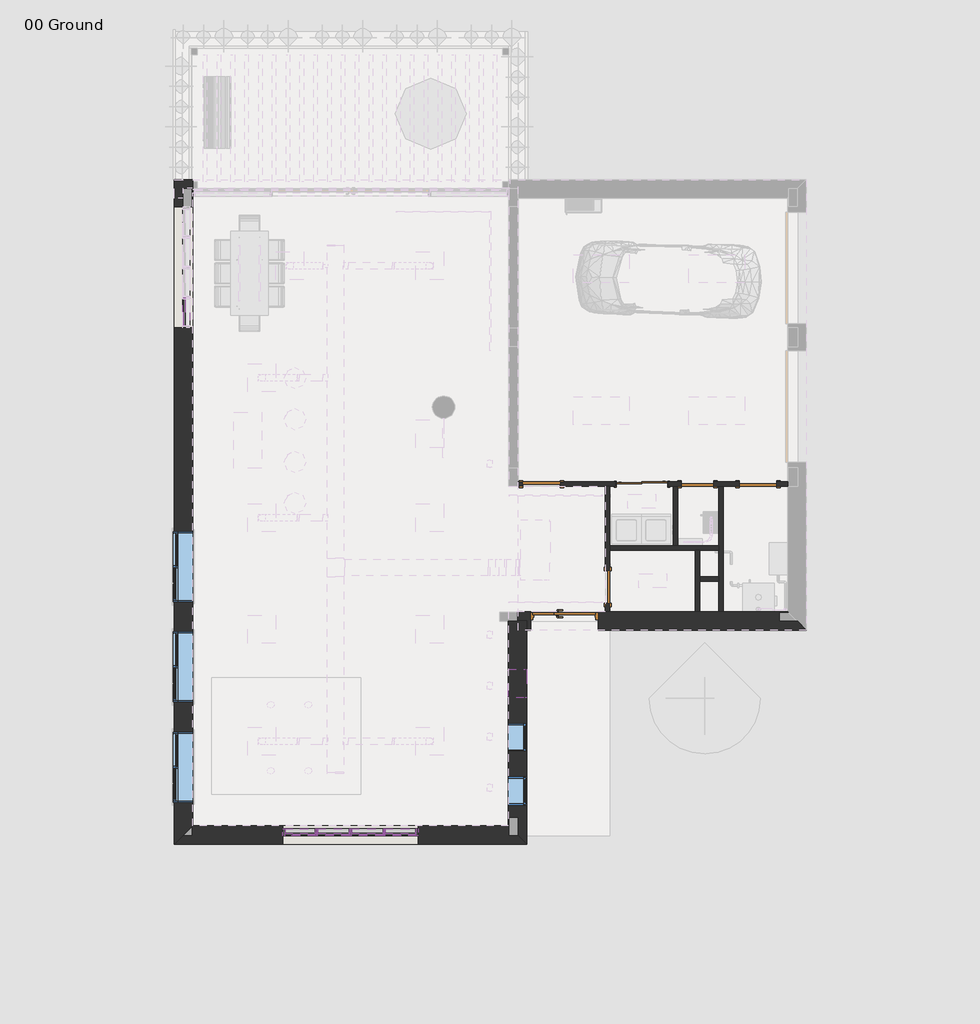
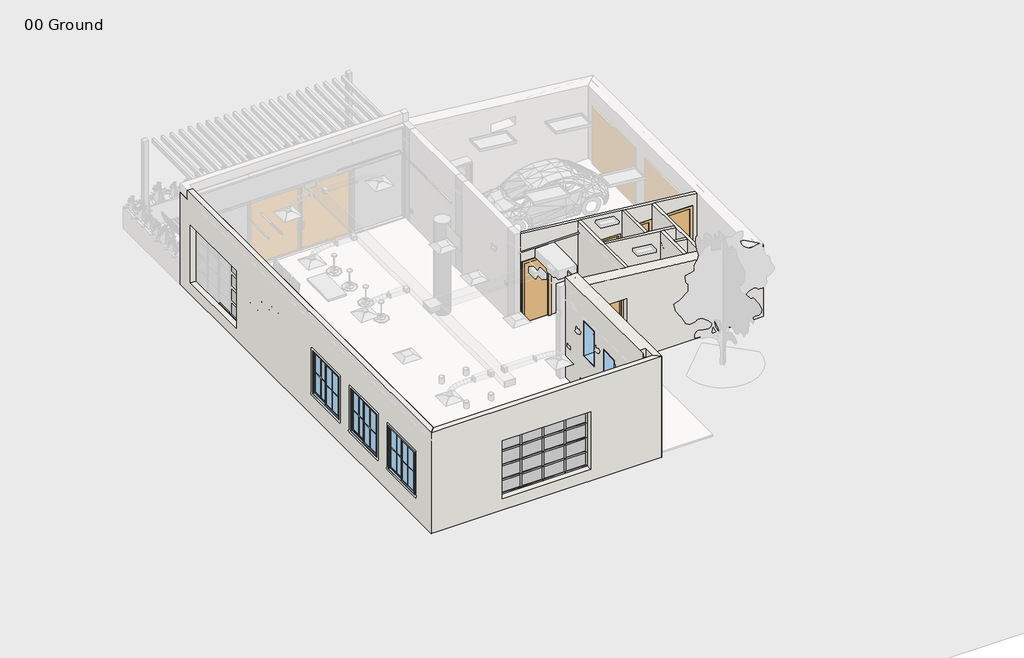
# One storey, part 1 of 7: 44 members, 20 plates, 11 walls, 6 doors, 6 windows.
"""IFC4 building model written with IfcOpenShell, lengths in millimetres."""

from ifc_helpers import new_model, si_unit, frame, origin, place, context, project, spatial, polyline, outline, extrude, faceted_brep, transform, mapped, element, save
from components import int_sliding_double_flush_nz_1100_double_sliding_door_f9a858bd, m_door_passage_uneven_flush_1350_x_2100mm_8cd78c95, m_single_flush_0700_x_2100mm_23326b45, m_single_flush_0800_x_2100mm_e1c1bfab, rectangular_mullion_50_x_150mm_5618a3b2, rectangular_mullion_50_x_150mm_9d7ed0e7, rectangular_mullion_50_x_150mm_0a8c3443, rectangular_mullion_50_x_150mm_fef40266, rectangular_mullion_50_x_150mm_4130c5bf, rectangular_mullion_50_x_150mm_a9044063, rectangular_mullion_50_x_150mm_1348d4e1, rectangular_mullion_50_x_150mm_b3666dbd, rectangular_mullion_50_x_150mm_567eccab, rectangular_mullion_50_x_150mm_22f77a7a, system_panel_glazed_5c27190a, system_panel_glazed_d06015c9, system_panel_glazed_d9146cf5, system_panel_glazed_aea024ea, system_panel_glazed_61722dae, system_panel_glazed_96a5b588, m_fixed_0610_x_1220mm_41f4d490, m_window_sliding_double_1500_x_1500mm_8cf3a065

model = new_model("IFC4")

# Units and contexts
model_context = context("Model", 3, world=origin())
ifc_project = project(units=[si_unit("LENGTHUNIT", "METRE", prefix="MILLI")], contexts=[model_context])

# Site, building, storey
site = spatial("IfcSite", under=ifc_project)
building = spatial("IfcBuilding", under=site)
storey = spatial("IfcBuildingStorey", under=building, Name="00 Ground", Elevation=0.0)

# Doors
placement = place(None, origin())
int_sliding_double_flush_nz_1100_double_sliding_door_shape = int_sliding_double_flush_nz_1100_double_sliding_door_f9a858bd(model_context)
element("IfcDoor", 1, ObjectType="Int Sliding Double-Flush (NZ) : 1100 DOUBLE SLIDING DOOR", at=placement, inside=storey, context=model_context, shape_type="MappedRepresentation", body=[
    mapped(int_sliding_double_flush_nz_1100_double_sliding_door_shape, transform((1539.7163421, -12.7101648, 0.0), x_axis=(1.0, 0.0, 0.0), y_axis=(0.0, 1.0, 0.0), z_axis=(0.0, 0.0, 1.0))),
])
m_door_passage_uneven_flush_1350_x_2100mm_shape = m_door_passage_uneven_flush_1350_x_2100mm_8cd78c95(model_context)
element("IfcDoor", 2, ObjectType="M_Door-Passage-Uneven-Flush : 1350 x 2100mm", at=placement, inside=storey, context=model_context, shape_type="MappedRepresentation", body=[
    mapped(m_door_passage_uneven_flush_1350_x_2100mm_shape, transform((-132.5407999, -2955.0601648, 0.0), x_axis=(-1.0, 0.0, 0.0), y_axis=(0.0, -1.0, 0.0), z_axis=(0.0, 0.0, 1.0))),
])
m_single_flush_0700_x_2100mm_shape = m_single_flush_0700_x_2100mm_23326b45(model_context)
element("IfcDoor", 3, ObjectType="M_Single-Flush : 0700 x 2100mm", at=placement, inside=storey, context=model_context, shape_type="MappedRepresentation", body=[
    mapped(m_single_flush_0700_x_2100mm_shape, transform((2727.4592001, -12.7101648, 0.0), x_axis=(-1.0, 0.0, 0.0), y_axis=(0.0, -1.0, 0.0), z_axis=(0.0, 0.0, 1.0))),
])
element("IfcDoor", 4, ObjectType="M_Single-Flush : 0700 x 2100mm", at=placement, inside=storey, context=model_context, shape_type="MappedRepresentation", body=[
    mapped(m_single_flush_0700_x_2100mm_shape, transform((796.9592001, -2219.7101648, 0.0), x_axis=(0.0, -1.0, 0.0), y_axis=(1.0, 0.0, 0.0), z_axis=(0.0, 0.0, 1.0))),
])
m_single_flush_0800_x_2100mm_shape = m_single_flush_0800_x_2100mm_e1c1bfab(model_context)
element("IfcDoor", 5, ObjectType="M_Single-Flush : 0800 x 2100mm", at=placement, inside=storey, context=model_context, shape_type="MappedRepresentation", body=[
    mapped(m_single_flush_0800_x_2100mm_shape, transform((-622.5407999, -12.7101648, 0.0), x_axis=(-1.0, 0.0, 0.0), y_axis=(0.0, -1.0, 0.0), z_axis=(0.0, 0.0, 1.0))),
])
element("IfcDoor", 6, ObjectType="M_Single-Flush : 0800 x 2100mm", at=placement, inside=storey, context=model_context, shape_type="MappedRepresentation", body=[
    mapped(m_single_flush_0800_x_2100mm_shape, transform((4024.4592001, -12.7101648, 0.0), x_axis=(1.0, 0.0, 0.0), y_axis=(0.0, 1.0, 0.0), z_axis=(0.0, 0.0, 1.0))),
])

# Members
rectangular_mullion_50_x_150mm_shape = rectangular_mullion_50_x_150mm_5618a3b2(model_context)
element("IfcMember", 7, ObjectType="Rectangular Mullion : 50 x 150mm", at=placement, inside=storey, context=model_context, shape_type="MappedRepresentation", body=[
    mapped(rectangular_mullion_50_x_150mm_shape, transform((-8247.5407999, 3987.2898354, 2400.0), x_axis=(0.0, 0.0, 1.0), y_axis=(1.0, 0.0, 0.0), z_axis=(0.0, 1.0, 0.0))),
])
element("IfcMember", 8, ObjectType="Rectangular Mullion : 50 x 150mm", at=placement, inside=storey, context=model_context, shape_type="MappedRepresentation", body=[
    mapped(rectangular_mullion_50_x_150mm_shape, transform((-8247.5407999, 3337.2898352, 400.0), x_axis=(0.0, 0.0, -1.0), y_axis=(1.0, 0.0, 0.0), z_axis=(0.0, -1.0, 0.0))),
])
rectangular_mullion_50_x_150mm_2_shape = rectangular_mullion_50_x_150mm_9d7ed0e7(model_context)
element("IfcMember", 9, ObjectType="Rectangular Mullion : 50 x 150mm", at=placement, inside=storey, context=model_context, shape_type="MappedRepresentation", body=[
    mapped(rectangular_mullion_50_x_150mm_2_shape, transform((-8247.5407999, 3987.2898354, 400.0), x_axis=(0.0, 0.0, -1.0), y_axis=(1.0, 0.0, 0.0), z_axis=(0.0, -1.0, 0.0))),
])
rectangular_mullion_50_x_150mm_3_shape = rectangular_mullion_50_x_150mm_0a8c3443(model_context)
element("IfcMember", 10, ObjectType="Rectangular Mullion : 50 x 150mm", at=placement, inside=storey, context=model_context, shape_type="MappedRepresentation", body=[
    mapped(rectangular_mullion_50_x_150mm_3_shape, transform((-8247.5407999, 3337.2898352, 2350.0), x_axis=(0.0, -1.0, 0.0), y_axis=(1.0, 0.0, 0.0), z_axis=(0.0, 0.0, 1.0))),
])
rectangular_mullion_50_x_150mm_4_shape = rectangular_mullion_50_x_150mm_fef40266(model_context)
element("IfcMember", 11, ObjectType="Rectangular Mullion : 50 x 150mm", at=placement, inside=storey, context=model_context, shape_type="MappedRepresentation", body=[
    mapped(rectangular_mullion_50_x_150mm_4_shape, transform((-3272.5407999, -7487.7101648, 2400.0), x_axis=(0.0, 0.0, 1.0), y_axis=(0.0, -1.0, 0.0), z_axis=(1.0, 0.0, 0.0))),
])
element("IfcMember", 12, ObjectType="Rectangular Mullion : 50 x 150mm", at=placement, inside=storey, context=model_context, shape_type="MappedRepresentation", body=[
    mapped(rectangular_mullion_50_x_150mm_4_shape, transform((-5447.5407998, -7487.7101648, 2400.0), x_axis=(0.0, 0.0, 1.0), y_axis=(0.0, -1.0, 0.0), z_axis=(1.0, 0.0, 0.0))),
])
rectangular_mullion_50_x_150mm_5_shape = rectangular_mullion_50_x_150mm_4130c5bf(model_context)
element("IfcMember", 13, ObjectType="Rectangular Mullion : 50 x 150mm", at=placement, inside=storey, context=model_context, shape_type="MappedRepresentation", body=[
    mapped(rectangular_mullion_50_x_150mm_5_shape, transform((-4722.5407999, -7487.7101648, 2400.0), x_axis=(0.0, 0.0, 1.0), y_axis=(0.0, -1.0, 0.0), z_axis=(1.0, 0.0, 0.0))),
])
element("IfcMember", 14, ObjectType="Rectangular Mullion : 50 x 150mm", at=placement, inside=storey, context=model_context, shape_type="MappedRepresentation", body=[
    mapped(rectangular_mullion_50_x_150mm_5_shape, transform((-3997.5408001, -7487.7101648, 2400.0), x_axis=(0.0, 0.0, 1.0), y_axis=(0.0, -1.0, 0.0), z_axis=(1.0, 0.0, 0.0))),
])
element("IfcMember", 15, ObjectType="Rectangular Mullion : 50 x 150mm", at=placement, inside=storey, context=model_context, shape_type="MappedRepresentation", body=[
    mapped(rectangular_mullion_50_x_150mm_4_shape, transform((-6172.5407999, -7487.7101648, 400.0), x_axis=(0.0, 0.0, -1.0), y_axis=(0.0, -1.0, 0.0), z_axis=(-1.0, 0.0, 0.0))),
])
element("IfcMember", 16, ObjectType="Rectangular Mullion : 50 x 150mm", at=placement, inside=storey, context=model_context, shape_type="MappedRepresentation", body=[
    mapped(rectangular_mullion_50_x_150mm_5_shape, transform((-5447.5407998, -7487.7101648, 400.0), x_axis=(0.0, 0.0, -1.0), y_axis=(0.0, -1.0, 0.0), z_axis=(-1.0, 0.0, 0.0))),
])
element("IfcMember", 17, ObjectType="Rectangular Mullion : 50 x 150mm", at=placement, inside=storey, context=model_context, shape_type="MappedRepresentation", body=[
    mapped(rectangular_mullion_50_x_150mm_5_shape, transform((-4722.5407999, -7487.7101648, 400.0), x_axis=(0.0, 0.0, -1.0), y_axis=(0.0, -1.0, 0.0), z_axis=(-1.0, 0.0, 0.0))),
])
element("IfcMember", 18, ObjectType="Rectangular Mullion : 50 x 150mm", at=placement, inside=storey, context=model_context, shape_type="MappedRepresentation", body=[
    mapped(rectangular_mullion_50_x_150mm_4_shape, transform((-3997.5408001, -7487.7101648, 400.0), x_axis=(0.0, 0.0, -1.0), y_axis=(0.0, -1.0, 0.0), z_axis=(-1.0, 0.0, 0.0))),
])
rectangular_mullion_50_x_150mm_6_shape = rectangular_mullion_50_x_150mm_a9044063(model_context)
element("IfcMember", 19, ObjectType="Rectangular Mullion : 50 x 150mm", at=placement, inside=storey, context=model_context, shape_type="MappedRepresentation", body=[
    mapped(rectangular_mullion_50_x_150mm_6_shape, transform((-3322.5407999, -7487.7101648, 900.0), x_axis=(0.0, 0.0, 1.0), y_axis=(0.0, -1.0, 0.0), z_axis=(1.0, 0.0, 0.0))),
])
element("IfcMember", 20, ObjectType="Rectangular Mullion : 50 x 150mm", at=placement, inside=storey, context=model_context, shape_type="MappedRepresentation", body=[
    mapped(rectangular_mullion_50_x_150mm_6_shape, transform((-3322.5407999, -7487.7101648, 1400.0), x_axis=(0.0, 0.0, 1.0), y_axis=(0.0, -1.0, 0.0), z_axis=(1.0, 0.0, 0.0))),
])
element("IfcMember", 21, ObjectType="Rectangular Mullion : 50 x 150mm", at=placement, inside=storey, context=model_context, shape_type="MappedRepresentation", body=[
    mapped(rectangular_mullion_50_x_150mm_6_shape, transform((-3322.5407999, -7487.7101648, 1900.0), x_axis=(0.0, 0.0, 1.0), y_axis=(0.0, -1.0, 0.0), z_axis=(1.0, 0.0, 0.0))),
])
element("IfcMember", 22, ObjectType="Rectangular Mullion : 50 x 150mm", at=placement, inside=storey, context=model_context, shape_type="MappedRepresentation", body=[
    mapped(rectangular_mullion_50_x_150mm_6_shape, transform((-5472.5407998, -7487.7101648, 900.0), x_axis=(0.0, 0.0, 1.0), y_axis=(0.0, -1.0, 0.0), z_axis=(1.0, 0.0, 0.0))),
])
element("IfcMember", 23, ObjectType="Rectangular Mullion : 50 x 150mm", at=placement, inside=storey, context=model_context, shape_type="MappedRepresentation", body=[
    mapped(rectangular_mullion_50_x_150mm_6_shape, transform((-5472.5407998, -7487.7101648, 1400.0), x_axis=(0.0, 0.0, 1.0), y_axis=(0.0, -1.0, 0.0), z_axis=(1.0, 0.0, 0.0))),
])
element("IfcMember", 24, ObjectType="Rectangular Mullion : 50 x 150mm", at=placement, inside=storey, context=model_context, shape_type="MappedRepresentation", body=[
    mapped(rectangular_mullion_50_x_150mm_6_shape, transform((-5472.5407998, -7487.7101648, 1900.0), x_axis=(0.0, 0.0, 1.0), y_axis=(0.0, -1.0, 0.0), z_axis=(1.0, 0.0, 0.0))),
])
rectangular_mullion_50_x_150mm_7_shape = rectangular_mullion_50_x_150mm_1348d4e1(model_context)
element("IfcMember", 25, ObjectType="Rectangular Mullion : 50 x 150mm", at=placement, inside=storey, context=model_context, shape_type="MappedRepresentation", body=[
    mapped(rectangular_mullion_50_x_150mm_7_shape, transform((-4747.5407999, -7487.7101648, 900.0), x_axis=(0.0, 0.0, 1.0), y_axis=(0.0, -1.0, 0.0), z_axis=(1.0, 0.0, 0.0))),
])
element("IfcMember", 26, ObjectType="Rectangular Mullion : 50 x 150mm", at=placement, inside=storey, context=model_context, shape_type="MappedRepresentation", body=[
    mapped(rectangular_mullion_50_x_150mm_7_shape, transform((-4022.5408001, -7487.7101648, 900.0), x_axis=(0.0, 0.0, 1.0), y_axis=(0.0, -1.0, 0.0), z_axis=(1.0, 0.0, 0.0))),
])
element("IfcMember", 27, ObjectType="Rectangular Mullion : 50 x 150mm", at=placement, inside=storey, context=model_context, shape_type="MappedRepresentation", body=[
    mapped(rectangular_mullion_50_x_150mm_7_shape, transform((-4747.5407999, -7487.7101648, 1400.0), x_axis=(0.0, 0.0, 1.0), y_axis=(0.0, -1.0, 0.0), z_axis=(1.0, 0.0, 0.0))),
])
element("IfcMember", 28, ObjectType="Rectangular Mullion : 50 x 150mm", at=placement, inside=storey, context=model_context, shape_type="MappedRepresentation", body=[
    mapped(rectangular_mullion_50_x_150mm_7_shape, transform((-4022.5408001, -7487.7101648, 1400.0), x_axis=(0.0, 0.0, 1.0), y_axis=(0.0, -1.0, 0.0), z_axis=(1.0, 0.0, 0.0))),
])
element("IfcMember", 29, ObjectType="Rectangular Mullion : 50 x 150mm", at=placement, inside=storey, context=model_context, shape_type="MappedRepresentation", body=[
    mapped(rectangular_mullion_50_x_150mm_7_shape, transform((-4747.5407999, -7487.7101648, 1900.0), x_axis=(0.0, 0.0, 1.0), y_axis=(0.0, -1.0, 0.0), z_axis=(1.0, 0.0, 0.0))),
])
element("IfcMember", 30, ObjectType="Rectangular Mullion : 50 x 150mm", at=placement, inside=storey, context=model_context, shape_type="MappedRepresentation", body=[
    mapped(rectangular_mullion_50_x_150mm_7_shape, transform((-4022.5408001, -7487.7101648, 1900.0), x_axis=(0.0, 0.0, 1.0), y_axis=(0.0, -1.0, 0.0), z_axis=(1.0, 0.0, 0.0))),
])
element("IfcMember", 31, ObjectType="Rectangular Mullion : 50 x 150mm", at=placement, inside=storey, context=model_context, shape_type="MappedRepresentation", body=[
    mapped(rectangular_mullion_50_x_150mm_3_shape, transform((-3272.5407999, -7487.7101648, 450.0), x_axis=(1.0, 0.0, 0.0), y_axis=(0.0, -1.0, 0.0), z_axis=(0.0, 0.0, -1.0))),
])
rectangular_mullion_50_x_150mm_8_shape = rectangular_mullion_50_x_150mm_b3666dbd(model_context)
element("IfcMember", 32, ObjectType="Rectangular Mullion : 50 x 150mm", at=placement, inside=storey, context=model_context, shape_type="MappedRepresentation", body=[
    mapped(rectangular_mullion_50_x_150mm_8_shape, transform((-3272.5407999, -7487.7101648, 900.0), x_axis=(1.0, 0.0, 0.0), y_axis=(0.0, -1.0, 0.0), z_axis=(0.0, 0.0, -1.0))),
])
element("IfcMember", 33, ObjectType="Rectangular Mullion : 50 x 150mm", at=placement, inside=storey, context=model_context, shape_type="MappedRepresentation", body=[
    mapped(rectangular_mullion_50_x_150mm_8_shape, transform((-3272.5407999, -7487.7101648, 1400.0), x_axis=(1.0, 0.0, 0.0), y_axis=(0.0, -1.0, 0.0), z_axis=(0.0, 0.0, -1.0))),
])
element("IfcMember", 34, ObjectType="Rectangular Mullion : 50 x 150mm", at=placement, inside=storey, context=model_context, shape_type="MappedRepresentation", body=[
    mapped(rectangular_mullion_50_x_150mm_3_shape, transform((-3272.5407999, -7487.7101648, 1900.0), x_axis=(1.0, 0.0, 0.0), y_axis=(0.0, -1.0, 0.0), z_axis=(0.0, 0.0, -1.0))),
])
element("IfcMember", 35, ObjectType="Rectangular Mullion : 50 x 150mm", at=placement, inside=storey, context=model_context, shape_type="MappedRepresentation", body=[
    mapped(rectangular_mullion_50_x_150mm_3_shape, transform((-6172.5407999, -7487.7101648, 2350.0), x_axis=(-1.0, 0.0, 0.0), y_axis=(0.0, -1.0, 0.0), z_axis=(0.0, 0.0, 1.0))),
])
element("IfcMember", 36, ObjectType="Rectangular Mullion : 50 x 150mm", at=placement, inside=storey, context=model_context, shape_type="MappedRepresentation", body=[
    mapped(rectangular_mullion_50_x_150mm_3_shape, transform((-6172.5407999, -7487.7101648, 900.0), x_axis=(-1.0, 0.0, 0.0), y_axis=(0.0, -1.0, 0.0), z_axis=(0.0, 0.0, 1.0))),
])
element("IfcMember", 37, ObjectType="Rectangular Mullion : 50 x 150mm", at=placement, inside=storey, context=model_context, shape_type="MappedRepresentation", body=[
    mapped(rectangular_mullion_50_x_150mm_8_shape, transform((-6172.5407999, -7487.7101648, 1400.0), x_axis=(-1.0, 0.0, 0.0), y_axis=(0.0, -1.0, 0.0), z_axis=(0.0, 0.0, 1.0))),
])
element("IfcMember", 38, ObjectType="Rectangular Mullion : 50 x 150mm", at=placement, inside=storey, context=model_context, shape_type="MappedRepresentation", body=[
    mapped(rectangular_mullion_50_x_150mm_8_shape, transform((-6172.5407999, -7487.7101648, 1900.0), x_axis=(-1.0, 0.0, 0.0), y_axis=(0.0, -1.0, 0.0), z_axis=(0.0, 0.0, 1.0))),
])
rectangular_mullion_50_x_150mm_9_shape = rectangular_mullion_50_x_150mm_567eccab(model_context)
element("IfcMember", 39, ObjectType="Rectangular Mullion : 50 x 150mm", at=placement, inside=storey, context=model_context, shape_type="MappedRepresentation", body=[
    mapped(rectangular_mullion_50_x_150mm_9_shape, transform((-5447.5407998, -7487.7101648, 450.0), x_axis=(1.0, 0.0, 0.0), y_axis=(0.0, -1.0, 0.0), z_axis=(0.0, 0.0, -1.0))),
])
element("IfcMember", 40, ObjectType="Rectangular Mullion : 50 x 150mm", at=placement, inside=storey, context=model_context, shape_type="MappedRepresentation", body=[
    mapped(rectangular_mullion_50_x_150mm_9_shape, transform((-4722.5407999, -7487.7101648, 450.0), x_axis=(1.0, 0.0, 0.0), y_axis=(0.0, -1.0, 0.0), z_axis=(0.0, 0.0, -1.0))),
])
element("IfcMember", 41, ObjectType="Rectangular Mullion : 50 x 150mm", at=placement, inside=storey, context=model_context, shape_type="MappedRepresentation", body=[
    mapped(rectangular_mullion_50_x_150mm_9_shape, transform((-3997.5408001, -7487.7101648, 450.0), x_axis=(1.0, 0.0, 0.0), y_axis=(0.0, -1.0, 0.0), z_axis=(0.0, 0.0, -1.0))),
])
rectangular_mullion_50_x_150mm_10_shape = rectangular_mullion_50_x_150mm_22f77a7a(model_context)
element("IfcMember", 42, ObjectType="Rectangular Mullion : 50 x 150mm", at=placement, inside=storey, context=model_context, shape_type="MappedRepresentation", body=[
    mapped(rectangular_mullion_50_x_150mm_10_shape, transform((-5447.5407998, -7487.7101648, 900.0), x_axis=(1.0, 0.0, 0.0), y_axis=(0.0, -1.0, 0.0), z_axis=(0.0, 0.0, -1.0))),
])
element("IfcMember", 43, ObjectType="Rectangular Mullion : 50 x 150mm", at=placement, inside=storey, context=model_context, shape_type="MappedRepresentation", body=[
    mapped(rectangular_mullion_50_x_150mm_10_shape, transform((-4722.5407999, -7487.7101648, 900.0), x_axis=(1.0, 0.0, 0.0), y_axis=(0.0, -1.0, 0.0), z_axis=(0.0, 0.0, -1.0))),
])
element("IfcMember", 44, ObjectType="Rectangular Mullion : 50 x 150mm", at=placement, inside=storey, context=model_context, shape_type="MappedRepresentation", body=[
    mapped(rectangular_mullion_50_x_150mm_10_shape, transform((-3997.5408001, -7487.7101648, 900.0), x_axis=(1.0, 0.0, 0.0), y_axis=(0.0, -1.0, 0.0), z_axis=(0.0, 0.0, -1.0))),
])
element("IfcMember", 45, ObjectType="Rectangular Mullion : 50 x 150mm", at=placement, inside=storey, context=model_context, shape_type="MappedRepresentation", body=[
    mapped(rectangular_mullion_50_x_150mm_10_shape, transform((-5447.5407998, -7487.7101648, 1400.0), x_axis=(1.0, 0.0, 0.0), y_axis=(0.0, -1.0, 0.0), z_axis=(0.0, 0.0, -1.0))),
])
element("IfcMember", 46, ObjectType="Rectangular Mullion : 50 x 150mm", at=placement, inside=storey, context=model_context, shape_type="MappedRepresentation", body=[
    mapped(rectangular_mullion_50_x_150mm_10_shape, transform((-4722.5407999, -7487.7101648, 1400.0), x_axis=(1.0, 0.0, 0.0), y_axis=(0.0, -1.0, 0.0), z_axis=(0.0, 0.0, -1.0))),
])
element("IfcMember", 47, ObjectType="Rectangular Mullion : 50 x 150mm", at=placement, inside=storey, context=model_context, shape_type="MappedRepresentation", body=[
    mapped(rectangular_mullion_50_x_150mm_10_shape, transform((-3997.5408001, -7487.7101648, 1400.0), x_axis=(1.0, 0.0, 0.0), y_axis=(0.0, -1.0, 0.0), z_axis=(0.0, 0.0, -1.0))),
])
element("IfcMember", 48, ObjectType="Rectangular Mullion : 50 x 150mm", at=placement, inside=storey, context=model_context, shape_type="MappedRepresentation", body=[
    mapped(rectangular_mullion_50_x_150mm_9_shape, transform((-5447.5407998, -7487.7101648, 1900.0), x_axis=(1.0, 0.0, 0.0), y_axis=(0.0, -1.0, 0.0), z_axis=(0.0, 0.0, -1.0))),
])
element("IfcMember", 49, ObjectType="Rectangular Mullion : 50 x 150mm", at=placement, inside=storey, context=model_context, shape_type="MappedRepresentation", body=[
    mapped(rectangular_mullion_50_x_150mm_9_shape, transform((-4722.5407999, -7487.7101648, 1900.0), x_axis=(1.0, 0.0, 0.0), y_axis=(0.0, -1.0, 0.0), z_axis=(0.0, 0.0, -1.0))),
])
element("IfcMember", 50, ObjectType="Rectangular Mullion : 50 x 150mm", at=placement, inside=storey, context=model_context, shape_type="MappedRepresentation", body=[
    mapped(rectangular_mullion_50_x_150mm_9_shape, transform((-3997.5408001, -7487.7101648, 1900.0), x_axis=(1.0, 0.0, 0.0), y_axis=(0.0, -1.0, 0.0), z_axis=(0.0, 0.0, -1.0))),
])

# Plates
system_panel_glazed_shape = system_panel_glazed_5c27190a(model_context)
element("IfcPlate", 51, ObjectType="System Panel : Glazed", at=placement, inside=storey, context=model_context, shape_type="MappedRepresentation", body=[
    mapped(system_panel_glazed_shape, transform((-8247.5407999, 3674.7898353, 450.0), x_axis=(0.0, 1.0, 0.0), y_axis=(-1.0, 0.0, 0.0), z_axis=(0.0, 0.0, 1.0))),
])
element("IfcPlate", 52, ObjectType="System Panel : Glazed", at=placement, inside=storey, context=model_context, shape_type="MappedRepresentation", body=[
    mapped(system_panel_glazed_shape, transform((-8247.5407999, 3674.7898353, 1925.0), x_axis=(0.0, 1.0, 0.0), y_axis=(-1.0, 0.0, 0.0), z_axis=(0.0, 0.0, 1.0))),
])
system_panel_glazed_2_shape = system_panel_glazed_d06015c9(model_context)
element("IfcPlate", 53, ObjectType="System Panel : Glazed", at=placement, inside=storey, context=model_context, shape_type="MappedRepresentation", body=[
    mapped(system_panel_glazed_2_shape, transform((-8247.5407999, 3674.7898353, 925.0), x_axis=(0.0, 1.0, 0.0), y_axis=(-1.0, 0.0, 0.0), z_axis=(0.0, 0.0, 1.0))),
])
element("IfcPlate", 54, ObjectType="System Panel : Glazed", at=placement, inside=storey, context=model_context, shape_type="MappedRepresentation", body=[
    mapped(system_panel_glazed_2_shape, transform((-8247.5407999, 3674.7898353, 1425.0), x_axis=(0.0, 1.0, 0.0), y_axis=(-1.0, 0.0, 0.0), z_axis=(0.0, 0.0, 1.0))),
])
system_panel_glazed_3_shape = system_panel_glazed_d9146cf5(model_context)
element("IfcPlate", 55, ObjectType="System Panel : Glazed", at=placement, inside=storey, context=model_context, shape_type="MappedRepresentation", body=[
    mapped(system_panel_glazed_3_shape, transform((-5797.5407999, -7487.7101648, 450.0), x_axis=(1.0, 0.0, 0.0), y_axis=(0.0, 1.0, 0.0), z_axis=(0.0, 0.0, 1.0))),
])
element("IfcPlate", 56, ObjectType="System Panel : Glazed", at=placement, inside=storey, context=model_context, shape_type="MappedRepresentation", body=[
    mapped(system_panel_glazed_3_shape, transform((-3647.5408, -7487.7101648, 450.0), x_axis=(1.0, 0.0, 0.0), y_axis=(0.0, 1.0, 0.0), z_axis=(0.0, 0.0, 1.0))),
])
element("IfcPlate", 57, ObjectType="System Panel : Glazed", at=placement, inside=storey, context=model_context, shape_type="MappedRepresentation", body=[
    mapped(system_panel_glazed_3_shape, transform((-5797.5407999, -7487.7101648, 1925.0), x_axis=(1.0, 0.0, 0.0), y_axis=(0.0, 1.0, 0.0), z_axis=(0.0, 0.0, 1.0))),
])
element("IfcPlate", 58, ObjectType="System Panel : Glazed", at=placement, inside=storey, context=model_context, shape_type="MappedRepresentation", body=[
    mapped(system_panel_glazed_3_shape, transform((-3647.5408, -7487.7101648, 1925.0), x_axis=(1.0, 0.0, 0.0), y_axis=(0.0, 1.0, 0.0), z_axis=(0.0, 0.0, 1.0))),
])
system_panel_glazed_4_shape = system_panel_glazed_aea024ea(model_context)
element("IfcPlate", 59, ObjectType="System Panel : Glazed", at=placement, inside=storey, context=model_context, shape_type="MappedRepresentation", body=[
    mapped(system_panel_glazed_4_shape, transform((-5085.0407999, -7487.7101648, 450.0), x_axis=(1.0, 0.0, 0.0), y_axis=(0.0, 1.0, 0.0), z_axis=(0.0, 0.0, 1.0))),
])
element("IfcPlate", 60, ObjectType="System Panel : Glazed", at=placement, inside=storey, context=model_context, shape_type="MappedRepresentation", body=[
    mapped(system_panel_glazed_4_shape, transform((-4360.0408, -7487.7101648, 450.0), x_axis=(1.0, 0.0, 0.0), y_axis=(0.0, 1.0, 0.0), z_axis=(0.0, 0.0, 1.0))),
])
element("IfcPlate", 61, ObjectType="System Panel : Glazed", at=placement, inside=storey, context=model_context, shape_type="MappedRepresentation", body=[
    mapped(system_panel_glazed_4_shape, transform((-5085.0407999, -7487.7101648, 1925.0), x_axis=(1.0, 0.0, 0.0), y_axis=(0.0, 1.0, 0.0), z_axis=(0.0, 0.0, 1.0))),
])
element("IfcPlate", 62, ObjectType="System Panel : Glazed", at=placement, inside=storey, context=model_context, shape_type="MappedRepresentation", body=[
    mapped(system_panel_glazed_4_shape, transform((-4360.0408, -7487.7101648, 1925.0), x_axis=(1.0, 0.0, 0.0), y_axis=(0.0, 1.0, 0.0), z_axis=(0.0, 0.0, 1.0))),
])
system_panel_glazed_5_shape = system_panel_glazed_61722dae(model_context)
element("IfcPlate", 63, ObjectType="System Panel : Glazed", at=placement, inside=storey, context=model_context, shape_type="MappedRepresentation", body=[
    mapped(system_panel_glazed_5_shape, transform((-5797.5407999, -7487.7101648, 925.0), x_axis=(1.0, 0.0, 0.0), y_axis=(0.0, 1.0, 0.0), z_axis=(0.0, 0.0, 1.0))),
])
element("IfcPlate", 64, ObjectType="System Panel : Glazed", at=placement, inside=storey, context=model_context, shape_type="MappedRepresentation", body=[
    mapped(system_panel_glazed_5_shape, transform((-3647.5408, -7487.7101648, 925.0), x_axis=(1.0, 0.0, 0.0), y_axis=(0.0, 1.0, 0.0), z_axis=(0.0, 0.0, 1.0))),
])
element("IfcPlate", 65, ObjectType="System Panel : Glazed", at=placement, inside=storey, context=model_context, shape_type="MappedRepresentation", body=[
    mapped(system_panel_glazed_5_shape, transform((-5797.5407999, -7487.7101648, 1425.0), x_axis=(1.0, 0.0, 0.0), y_axis=(0.0, 1.0, 0.0), z_axis=(0.0, 0.0, 1.0))),
])
element("IfcPlate", 66, ObjectType="System Panel : Glazed", at=placement, inside=storey, context=model_context, shape_type="MappedRepresentation", body=[
    mapped(system_panel_glazed_5_shape, transform((-3647.5408, -7487.7101648, 1425.0), x_axis=(1.0, 0.0, 0.0), y_axis=(0.0, 1.0, 0.0), z_axis=(0.0, 0.0, 1.0))),
])
system_panel_glazed_6_shape = system_panel_glazed_96a5b588(model_context)
element("IfcPlate", 67, ObjectType="System Panel : Glazed", at=placement, inside=storey, context=model_context, shape_type="MappedRepresentation", body=[
    mapped(system_panel_glazed_6_shape, transform((-5085.0407999, -7487.7101648, 925.0), x_axis=(1.0, 0.0, 0.0), y_axis=(0.0, 1.0, 0.0), z_axis=(0.0, 0.0, 1.0))),
])
element("IfcPlate", 68, ObjectType="System Panel : Glazed", at=placement, inside=storey, context=model_context, shape_type="MappedRepresentation", body=[
    mapped(system_panel_glazed_6_shape, transform((-4360.0408, -7487.7101648, 925.0), x_axis=(1.0, 0.0, 0.0), y_axis=(0.0, 1.0, 0.0), z_axis=(0.0, 0.0, 1.0))),
])
element("IfcPlate", 69, ObjectType="System Panel : Glazed", at=placement, inside=storey, context=model_context, shape_type="MappedRepresentation", body=[
    mapped(system_panel_glazed_6_shape, transform((-5085.0407999, -7487.7101648, 1425.0), x_axis=(1.0, 0.0, 0.0), y_axis=(0.0, 1.0, 0.0), z_axis=(0.0, 0.0, 1.0))),
])
element("IfcPlate", 70, ObjectType="System Panel : Glazed", at=placement, inside=storey, context=model_context, shape_type="MappedRepresentation", body=[
    mapped(system_panel_glazed_6_shape, transform((-4360.0408, -7487.7101648, 1425.0), x_axis=(1.0, 0.0, 0.0), y_axis=(0.0, 1.0, 0.0), z_axis=(0.0, 0.0, 1.0))),
])

# Walls
element("IfcWall", 71, ObjectType="Exterior - Brick on CMU", at=placement, inside=storey, context=model_context, shape_type="Brep", body=[
    faceted_brep([(-937.5407999, -7747.7101648, 0.0), (-937.5407999, -2948.7101648, 0.0), (-937.5407999, -2948.7101648, 3500.0), (-937.5407999, -7747.7101648, 3500.0), (-937.5407999, -3992.7101648, 2600.0), (-937.5407999, -3992.7101648, 1380.0), (-937.5407999, -4602.7101648, 1380.0), (-937.5407999, -4602.7101648, 2600.0), (-937.5407999, -5142.7101648, 2300.0), (-937.5407999, -5142.7101648, 1080.0), (-937.5407999, -5752.7101648, 1080.0), (-937.5407999, -5752.7101648, 2300.0), (-937.5407999, -6292.7101648, 2000.0), (-937.5407999, -6292.7101648, 780.0), (-937.5407999, -6902.7101648, 780.0), (-937.5407999, -6902.7101648, 2000.0), (-1335.5407999, -7349.7101648, 0.0), (-1335.5407999, -7349.7101648, 3500.0), (-1335.5407999, -2962.7101648, 3500.0), (-1335.5407999, -2962.7101648, 0.0), (-1335.5407999, -3992.7101648, 1380.0), (-1335.5407999, -3992.7101648, 2600.0), (-1335.5407999, -4602.7101648, 2600.0), (-1335.5407999, -4602.7101648, 1380.0), (-1335.5407999, -5142.7101648, 1080.0), (-1335.5407999, -5142.7101648, 2300.0), (-1335.5407999, -5752.7101648, 2300.0), (-1335.5407999, -5752.7101648, 1080.0), (-1335.5407999, -6292.7101648, 780.0), (-1335.5407999, -6292.7101648, 2000.0), (-1335.5407999, -6902.7101648, 2000.0), (-1335.5407999, -6902.7101648, 780.0), (-1122.5407999, -7562.7101648, 0.0), (-1122.5407999, -7162.7101648, 0.0), (-1322.5407999, -7162.7101648, 0.0), (-1322.5407999, -7362.7101648, 0.0), (-1122.5407999, -2962.7101648, 0.0), (-1122.5407999, -2948.7101648, 0.0), (-1122.5407999, -2948.7101648, 3500.0), (-1122.5407999, -2962.7101648, 3500.0), (-1322.5407999, -7362.7101648, 3500.0), (-1322.5407999, -7162.7101648, 3500.0), (-1122.5407999, -7162.7101648, 3500.0), (-1122.5407999, -7562.7101648, 3500.0), (-1322.5407999, -7362.7101648, 3200.0), (-1122.5407999, -2962.7101648, 3200.0), (-1122.5407999, -7162.7101648, 3200.0), (-1322.5407999, -7162.7101648, 3200.0)], [[[0, 1, 2, 3], [4, 5, 6, 7], [8, 9, 10, 11], [12, 13, 14, 15]], [[16, 17, 18, 19], [20, 21, 22, 23], [24, 25, 26, 27], [28, 29, 30, 31]], [[1, 0, 32, 33, 34, 35, 16, 19, 36, 37]], [[2, 1, 37, 38]], [[3, 2, 38, 39, 18, 17, 40, 41, 42, 43]], [[0, 3, 43, 32]], [[17, 16, 35, 44, 40]], [[20, 5, 4, 21]], [[6, 23, 22, 7]], [[5, 20, 23, 6]], [[7, 22, 21, 4]], [[24, 9, 8, 25]], [[25, 8, 11, 26]], [[26, 11, 10, 27]], [[9, 24, 27, 10]], [[28, 13, 12, 29]], [[29, 12, 15, 30]], [[30, 15, 14, 31]], [[13, 28, 31, 14]], [[36, 45, 39, 38, 37]], [[39, 45, 36, 19, 18]], [[42, 46, 33, 32, 43]], [[34, 47, 41, 40, 44, 35]], [[33, 46, 42, 41, 47, 34]]]),
])
element("IfcWall", 72, ObjectType="Exterior - Brick on CMU", at=placement, inside=storey, context=model_context, shape_type="Brep", body=[
    faceted_brep([(-1136.5407999, -3147.7101648, 3500.0), (-1136.5407999, -3147.7101648, 0.0), (-857.5407999, -3147.7101648, 0.0), (-857.5407999, -3147.7101648, 2200.0), (592.4592001, -3147.7101648, 2200.0), (592.4592001, -3147.7101648, 0.0), (5062.4592001, -3147.7101648, 0.0), (5062.4592001, -3147.7101648, 2500.0), (-1122.5407999, -3147.7101648, 3160.0), (-1122.5407999, -3147.7101648, 3500.0), (-1136.5407999, -2749.7101648, 0.0), (-1136.5407999, -2749.7101648, 3500.0), (-1122.5407999, -2749.7101648, 3500.0), (-1122.5407999, -2749.7101648, 3160.0), (746.9592001, -2749.7101648, 2960.5060631), (846.9592001, -2749.7101648, 2949.8350849), (2677.4592001, -2749.7101648, 2754.5028294), (2777.4592001, -2749.7101648, 2743.8318513), (3177.4592001, -2749.7101648, 2701.1479386), (3277.4592001, -2749.7101648, 2690.4769604), (4664.4592001, -2749.7101648, 2542.4704931), (4664.4592001, -2749.7101648, 0.0), (3277.4592001, -2749.7101648, 0.0), (3177.4592001, -2749.7101648, 0.0), (2777.4592001, -2749.7101648, 0.0), (2677.4592001, -2749.7101648, 0.0), (846.9592001, -2749.7101648, 0.0), (746.9592001, -2749.7101648, 0.0), (592.4592001, -2749.7101648, 0.0), (592.4592001, -2749.7101648, 2200.0), (-857.5407999, -2749.7101648, 2200.0), (-857.5407999, -2749.7101648, 0.0), (4677.4592001, -2762.7101648, 0.0), (4477.4592001, -2762.7101648, 0.0), (4477.4592001, -2962.7101648, 0.0), (4877.4592001, -2962.7101648, 0.0), (4877.4592001, -2962.7101648, 2519.7413096), (4677.4592001, -2762.7101648, 2519.7413096), (4477.4592001, -2962.7101648, 2519.7413096), (4477.4592001, -2762.7101648, 2519.7413096)], [[[0, 1, 2, 3, 4, 5, 6, 7, 8, 9]], [[10, 11, 12, 13, 14, 15, 16, 17, 18, 19, 20, 21, 22, 23, 24, 25, 26, 27, 28, 29, 30, 31]], [[1, 10, 31, 2]], [[6, 5, 28, 27, 26, 25, 24, 23, 22, 21, 32, 33, 34, 35]], [[1, 0, 11, 10]], [[7, 6, 35, 36]], [[21, 20, 36, 37, 32]], [[38, 36, 35, 34]], [[33, 39, 38, 34]], [[39, 33, 32, 37]], [[36, 38, 39, 37]], [[30, 3, 2, 31]], [[3, 30, 29, 4]], [[4, 29, 28, 5]], [[11, 0, 9, 12]], [[12, 9, 8, 13]], [[8, 7, 36, 20, 19, 18, 17, 16, 15, 14, 13]]]),
])
element("IfcWall", 73, ObjectType="Exterior - Brick on CMU", at=placement, inside=storey, context=model_context, shape_type="Brep", body=[
    faceted_brep([(-1335.5407999, -7349.7101648, 0.0), (-8109.5407999, -7349.7101648, 0.0), (-8109.5407999, -7349.7101648, 3200.0), (-1335.5407999, -7349.7101648, 3200.0), (-6172.5407999, -7349.7101648, 2400.0), (-6172.5407999, -7349.7101648, 400.0), (-3272.5407999, -7349.7101648, 400.0), (-3272.5407999, -7349.7101648, 2400.0), (-8507.5407999, -7747.7101648, 0.0), (-937.5407999, -7747.7101648, 0.0), (-937.5407999, -7747.7101648, 3500.0), (-8507.5407999, -7747.7101648, 3500.0), (-6172.5407999, -7747.7101648, 400.0), (-6172.5407999, -7747.7101648, 2400.0), (-3272.5407999, -7747.7101648, 2400.0), (-3272.5407999, -7747.7101648, 400.0), (-1322.5407999, -7362.7101648, 0.0), (-1322.5407999, -7562.7101648, 0.0), (-1122.5407999, -7562.7101648, 0.0), (-8322.5407999, -7562.7101648, 0.0), (-8122.5407999, -7562.7101648, 0.0), (-8122.5407999, -7362.7101648, 0.0), (-1122.5407999, -7562.7101648, 3500.0), (-8322.5407999, -7562.7101648, 3500.0), (-1322.5407999, -7362.7101648, 3200.0), (-8122.5407999, -7362.7101648, 3200.0), (-8122.5407999, -7562.7101648, 3200.0), (-1322.5407999, -7562.7101648, 3200.0)], [[[0, 1, 2, 3], [4, 5, 6, 7]], [[8, 9, 10, 11], [12, 13, 14, 15]], [[1, 0, 16, 17, 18, 9, 8, 19, 20, 21]], [[11, 10, 22, 23]], [[10, 9, 18, 22]], [[16, 0, 3, 24]], [[8, 11, 23, 19]], [[1, 21, 25, 2]], [[4, 13, 12, 5]], [[13, 4, 7, 14]], [[14, 7, 6, 15]], [[5, 12, 15, 6]], [[21, 20, 26, 25]], [[20, 19, 23, 22, 18, 17, 27, 26]], [[17, 16, 24, 27]], [[26, 27, 24, 3, 2, 25]]]),
])
element("IfcWall", 74, ObjectType="Exterior - Brick on CMU", at=placement, inside=storey, context=model_context, shape_type="Brep", body=[
    faceted_brep([(-8109.5407999, -7349.7101648, 0.0), (-8109.5407999, 6522.2898352, 0.0), (-8109.5407999, 6522.2898352, 3200.0), (-8109.5407999, -7349.7101648, 3200.0), (-8109.5407999, 3337.2898352, 400.0), (-8109.5407999, 3337.2898352, 2400.0), (-8109.5407999, 5937.2898352, 2400.0), (-8109.5407999, 5937.2898352, 400.0), (-8109.5407999, -5337.7101648, 2300.0), (-8109.5407999, -5337.7101648, 800.0), (-8109.5407999, -6837.7101648, 800.0), (-8109.5407999, -6837.7101648, 2300.0), (-8109.5407999, -3187.7101648, 2300.0), (-8109.5407999, -3187.7101648, 800.0), (-8109.5407999, -4687.7101648, 800.0), (-8109.5407999, -4687.7101648, 2300.0), (-8109.5407999, -1037.7101648, 2300.0), (-8109.5407999, -1037.7101648, 800.0), (-8109.5407999, -2537.7101648, 800.0), (-8109.5407999, -2537.7101648, 2300.0), (-8507.5407999, 6522.2898352, 0.0), (-8507.5407999, -7747.7101648, 0.0), (-8507.5407999, -7747.7101648, 3500.0), (-8507.5407999, 6124.2898352, 3500.0), (-8507.5407999, 6124.2898352, 3200.0), (-8507.5407999, 6522.2898352, 3200.0), (-8507.5407999, 3337.2898352, 2400.0), (-8507.5407999, 3337.2898352, 400.0), (-8507.5407999, 5937.2898352, 400.0), (-8507.5407999, 5937.2898352, 2400.0), (-8507.5407999, -5337.7101648, 800.0), (-8507.5407999, -5337.7101648, 2300.0), (-8507.5407999, -6837.7101648, 2300.0), (-8507.5407999, -6837.7101648, 800.0), (-8507.5407999, -3187.7101648, 800.0), (-8507.5407999, -3187.7101648, 2300.0), (-8507.5407999, -4687.7101648, 2300.0), (-8507.5407999, -4687.7101648, 800.0), (-8507.5407999, -1037.7101648, 800.0), (-8507.5407999, -1037.7101648, 2300.0), (-8507.5407999, -2537.7101648, 2300.0), (-8507.5407999, -2537.7101648, 800.0), (-8122.5407999, -7362.7101648, 0.0), (-8322.5407999, -7562.7101648, 0.0), (-8322.5407999, 5937.2898352, 0.0), (-8122.5407999, 5937.2898352, 0.0), (-8122.5407999, 6337.2898352, 0.0), (-8322.5407999, 6337.2898352, 0.0), (-8122.5407999, -7362.7101648, 3200.0), (-8322.5407999, -7562.7101648, 3200.0), (-8322.5407999, -7562.7101648, 3500.0), (-8322.5407999, 5937.2898352, 2400.0), (-8122.5407999, 5937.2898352, 2400.0), (-8122.5407999, 5937.2898352, 400.0), (-8322.5407999, 5937.2898352, 400.0), (-8322.5407999, 5937.2898352, 3200.0), (-8122.5407999, 5937.2898352, 3200.0), (-8322.5407999, 6337.2898352, 3200.0), (-8322.5407999, 6124.2898352, 3200.0), (-8322.5407999, 6124.2898352, 3500.0), (-8122.5407999, 6337.2898352, 3200.0)], [[[0, 1, 2, 3], [4, 5, 6, 7], [8, 9, 10, 11], [12, 13, 14, 15], [16, 17, 18, 19]], [[20, 21, 22, 23, 24, 25], [26, 27, 28, 29], [30, 31, 32, 33], [34, 35, 36, 37], [38, 39, 40, 41]], [[1, 0, 42, 43, 21, 20], [44, 45, 46, 47]], [[1, 20, 25, 2]], [[22, 21, 43, 42, 0, 3, 48, 49, 50]], [[4, 27, 26, 5]], [[5, 26, 29, 51, 52, 6]], [[7, 6, 52, 53]], [[29, 28, 54, 51]], [[27, 4, 7, 53, 54, 28]], [[52, 51, 55, 56]], [[44, 54, 53, 45]], [[54, 44, 47, 57, 58, 59, 50, 49, 55, 51]], [[47, 46, 60, 57]], [[59, 58, 24, 23]], [[2, 25, 24, 58, 57, 60, 56, 55, 49, 48, 3]], [[9, 8, 31, 30]], [[10, 9, 30, 33]], [[11, 10, 33, 32]], [[8, 11, 32, 31]], [[13, 12, 35, 34]], [[14, 13, 34, 37]], [[15, 14, 37, 36]], [[12, 15, 36, 35]], [[17, 16, 39, 38]], [[18, 17, 38, 41]], [[19, 18, 41, 40]], [[16, 19, 40, 39]], [[45, 53, 52, 56, 60, 46]], [[23, 22, 50, 59]]]),
])
element("IfcWall", 75, ObjectType="Generic - 100mm", at=placement, inside=storey, context=model_context, shape_type="Brep", body=[
    faceted_brep([(3277.4592001, -2749.7101648, 0.0), (3277.4592001, -62.7101648, 0.0), (3277.4592001, -62.7101648, 2690.4769604), (3277.4592001, -2749.7101648, 2690.4769604), (3177.4592001, -2749.7101648, 0.0), (3177.4592001, -2749.7101648, 2701.1479386), (3177.4592001, -2097.7101648, 2701.1479386), (3177.4592001, -1997.7101648, 2701.1479386), (3177.4592001, -1432.7101648, 2701.1479386), (3177.4592001, -1332.7101648, 2701.1479386), (3177.4592001, -62.7101648, 2701.1479386), (3177.4592001, -62.7101648, 0.0), (3177.4592001, -1332.7101648, 0.0), (3177.4592001, -1432.7101648, 0.0), (3177.4592001, -1997.7101648, 0.0), (3177.4592001, -2097.7101648, 0.0)], [[[0, 1, 2, 3]], [[4, 5, 6, 7, 8, 9, 10, 11, 12, 13, 14, 15]], [[1, 0, 4, 15, 14, 13, 12, 11]], [[0, 3, 5, 4]], [[2, 1, 11, 10]], [[3, 2, 10, 9, 8, 7, 6, 5]]]),
])
element("IfcWall", 76, ObjectType="Generic - 100mm", at=placement, inside=storey, context=model_context, shape_type="Brep", body=[
    faceted_brep([(-1122.5407999, 37.2898352, 0.0), (-1122.5407999, 37.2898352, 3160.0), (4664.4592001, 37.2898352, 2542.4704931), (4664.4592001, 37.2898352, 0.0), (4424.4592001, 37.2898352, 0.0), (4424.4592001, 37.2898352, 2100.0), (3624.4592001, 37.2898352, 2100.0), (3624.4592001, 37.2898352, 0.0), (3077.4592001, 37.2898352, 0.0), (3077.4592001, 37.2898352, 2100.0), (2377.4592001, 37.2898352, 2100.0), (2377.4592001, 37.2898352, 0.0), (2102.4592001, 37.2898352, 0.0), (2102.4592001, 37.2898352, 1999.0), (964.4592001, 37.2898352, 1999.0), (964.4592001, 37.2898352, 0.0), (-222.5407999, 37.2898352, 0.0), (-222.5407999, 37.2898352, 2100.0), (-1022.5407999, 37.2898352, 2100.0), (-1022.5407999, 37.2898352, 0.0), (-1122.5407999, -62.7101648, 3160.0), (-1122.5407999, -62.7101648, 0.0), (-1022.5407999, -62.7101648, 0.0), (-1022.5407999, -62.7101648, 2100.0), (-222.5407999, -62.7101648, 2100.0), (-222.5407999, -62.7101648, 0.0), (746.9592001, -62.7101648, 0.0), (846.9592001, -62.7101648, 0.0), (964.4592001, -62.7101648, 0.0), (964.4592001, -62.7101648, 1999.0), (2102.4592001, -62.7101648, 1999.0), (2102.4592001, -62.7101648, 0.0), (2202.4592001, -62.7101648, 0.0), (2302.4592001, -62.7101648, 0.0), (2377.4592001, -62.7101648, 0.0), (2377.4592001, -62.7101648, 2100.0), (3077.4592001, -62.7101648, 2100.0), (3077.4592001, -62.7101648, 0.0), (3177.4592001, -62.7101648, 0.0), (3277.4592001, -62.7101648, 0.0), (3624.4592001, -62.7101648, 0.0), (3624.4592001, -62.7101648, 2100.0), (4424.4592001, -62.7101648, 2100.0), (4424.4592001, -62.7101648, 0.0), (4664.4592001, -62.7101648, 0.0), (4664.4592001, -62.7101648, 2542.4704931), (3277.4592001, -62.7101648, 2690.4769604), (3177.4592001, -62.7101648, 2701.1479386), (2302.4592001, -62.7101648, 2794.5189976), (2202.4592001, -62.7101648, 2805.1899757), (846.9592001, -62.7101648, 2949.8350849), (746.9592001, -62.7101648, 2960.5060631)], [[[0, 1, 2, 3, 4, 5, 6, 7, 8, 9, 10, 11, 12, 13, 14, 15, 16, 17, 18, 19]], [[20, 21, 22, 23, 24, 25, 26, 27, 28, 29, 30, 31, 32, 33, 34, 35, 36, 37, 38, 39, 40, 41, 42, 43, 44, 45, 46, 47, 48, 49, 50, 51]], [[21, 0, 19, 22]], [[3, 44, 43, 4]], [[25, 16, 15, 28, 27, 26]], [[7, 40, 39, 38, 37, 8]], [[11, 34, 33, 32, 31, 12]], [[1, 0, 21, 20]], [[3, 2, 45, 44]], [[2, 1, 20, 51, 50, 49, 48, 47, 46, 45]], [[23, 22, 19, 18]], [[24, 23, 18, 17]], [[25, 24, 17, 16]], [[5, 4, 43, 42]], [[6, 5, 42, 41]], [[7, 6, 41, 40]], [[35, 34, 11, 10]], [[36, 35, 10, 9]], [[37, 36, 9, 8]], [[30, 13, 12, 31]], [[13, 30, 29, 14]], [[14, 29, 28, 15]]]),
])
element("IfcWall", 77, ObjectType="Generic - 100mm", at=placement, inside=storey, context=model_context, shape_type="Brep", body=[
    faceted_brep([(846.9592001, -2749.7101648, 0.0), (846.9592001, -2569.7101648, 0.0), (846.9592001, -2569.7101648, 2100.0), (846.9592001, -1869.7101648, 2100.0), (846.9592001, -1869.7101648, 0.0), (846.9592001, -1432.7101648, 0.0), (846.9592001, -1332.7101648, 0.0), (846.9592001, -62.7101648, 0.0), (846.9592001, -62.7101648, 2949.8350849), (846.9592001, -1332.7101648, 2949.8350849), (846.9592001, -1432.7101648, 2949.8350849), (846.9592001, -2749.7101648, 2949.8350849), (746.9592001, -2569.7101648, 2100.0), (746.9592001, -2569.7101648, 0.0), (746.9592001, -2749.7101648, 0.0), (746.9592001, -2749.7101648, 2960.5060631), (746.9592001, -62.7101648, 2960.5060631), (746.9592001, -62.7101648, 0.0), (746.9592001, -1869.7101648, 0.0), (746.9592001, -1869.7101648, 2100.0)], [[[0, 1, 2, 3, 4, 5, 6, 7, 8, 9, 10, 11]], [[12, 13, 14, 15, 16, 17, 18, 19]], [[18, 17, 7, 6, 5, 4]], [[14, 13, 1, 0]], [[0, 11, 15, 14]], [[8, 7, 17, 16]], [[11, 10, 9, 8, 16, 15]], [[2, 1, 13, 12]], [[3, 2, 12, 19]], [[4, 3, 19, 18]]]),
])
element("IfcWall", 78, ObjectType="Generic - 100mm", at=placement, inside=storey, context=model_context, shape_type="Brep", body=[
    faceted_brep([(846.9592001, -1432.7101648, 0.0), (2677.4592001, -1432.7101648, 0.0), (2777.4592001, -1432.7101648, 0.0), (3177.4592001, -1432.7101648, 0.0), (3177.4592001, -1432.7101648, 2701.1479386), (2777.4592001, -1432.7101648, 2743.8318513), (2677.4592001, -1432.7101648, 2754.5028294), (846.9592001, -1432.7101648, 2949.8350849), (846.9592001, -1332.7101648, 0.0), (846.9592001, -1332.7101648, 2949.8350849), (2202.4592001, -1332.7101648, 2805.1899757), (2302.4592001, -1332.7101648, 2794.5189976), (3177.4592001, -1332.7101648, 2701.1479386), (3177.4592001, -1332.7101648, 0.0), (2302.4592001, -1332.7101648, 0.0), (2202.4592001, -1332.7101648, 0.0)], [[[0, 1, 2, 3, 4, 5, 6, 7]], [[8, 9, 10, 11, 12, 13, 14, 15]], [[3, 2, 1, 0, 8, 15, 14, 13]], [[4, 3, 13, 12]], [[0, 7, 9, 8]], [[7, 6, 5, 4, 12, 11, 10, 9]]]),
])
element("IfcWall", 79, ObjectType="Generic - 100mm", at=placement, inside=storey, context=model_context, shape_type="Brep", body=[
    faceted_brep([(2777.4592001, -2749.7101648, 0.0), (2777.4592001, -2097.7101648, 0.0), (2777.4592001, -1997.7101648, 0.0), (2777.4592001, -1432.7101648, 0.0), (2777.4592001, -1432.7101648, 2743.8318513), (2777.4592001, -1997.7101648, 2743.8318513), (2777.4592001, -2097.7101648, 2743.8318513), (2777.4592001, -2749.7101648, 2743.8318513), (2677.4592001, -2749.7101648, 0.0), (2677.4592001, -2749.7101648, 2754.5028294), (2677.4592001, -1432.7101648, 2754.5028294), (2677.4592001, -1432.7101648, 0.0)], [[[0, 1, 2, 3, 4, 5, 6, 7]], [[8, 9, 10, 11]], [[3, 2, 1, 0, 8, 11]], [[0, 7, 9, 8]], [[4, 3, 11, 10]], [[7, 6, 5, 4, 10, 9]]]),
])
element("IfcWall", 80, ObjectType="Generic - 100mm", at=placement, inside=storey, context=model_context, shape_type="SweptSolid", body=[
    extrude(outline(polyline([(0.0, 2777.4592001), (0.0, 3177.4592001), (2701.1479386, 3177.4592001), (2743.8318513, 2777.4592001), (0.0, 2777.4592001)])), frame((0.0, -2097.7101648, 0.0), z_axis=(0.0, 1.0, 0.0), x_axis=(0.0, 0.0, 1.0)), (0.0, 0.0, 1.0), 100.0),
])
element("IfcWall", 81, ObjectType="Generic - 100mm", at=placement, inside=storey, context=model_context, shape_type="SweptSolid", body=[
    extrude(outline(polyline([(0.0, 2302.4592001), (2794.5189976, 2302.4592001), (2805.1899757, 2202.4592001), (0.0, 2202.4592001), (0.0, 2302.4592001)])), frame((0.0, -1332.7101648, 0.0), z_axis=(0.0, 1.0, 0.0), x_axis=(0.0, 0.0, 1.0)), (0.0, 0.0, 1.0), 1270.0),
])

# Windows
m_fixed_0610_x_1220mm_shape = m_fixed_0610_x_1220mm_41f4d490(model_context)
element("IfcWindow", 82, ObjectType="M_Fixed : 0610 x 1220mm", at=placement, inside=storey, context=model_context, shape_type="MappedRepresentation", body=[
    mapped(m_fixed_0610_x_1220mm_shape, transform((-1149.5407999, -6597.7101648, -135.0), x_axis=(0.0, -1.0, 0.0), y_axis=(1.0, 0.0, 0.0), z_axis=(0.0, 0.0, 1.0))),
])
element("IfcWindow", 83, ObjectType="M_Fixed : 0610 x 1220mm", at=placement, inside=storey, context=model_context, shape_type="MappedRepresentation", body=[
    mapped(m_fixed_0610_x_1220mm_shape, transform((-1149.5407999, -5447.7101648, 165.0), x_axis=(0.0, -1.0, 0.0), y_axis=(1.0, 0.0, 0.0), z_axis=(0.0, 0.0, 1.0))),
])
element("IfcWindow", 84, ObjectType="M_Fixed : 0610 x 1220mm", at=placement, inside=storey, context=model_context, shape_type="MappedRepresentation", body=[
    mapped(m_fixed_0610_x_1220mm_shape, transform((-1149.5407999, -4297.7101648, 465.0), x_axis=(0.0, -1.0, 0.0), y_axis=(1.0, 0.0, 0.0), z_axis=(0.0, 0.0, 1.0))),
])
m_window_sliding_double_1500_x_1500mm_shape = m_window_sliding_double_1500_x_1500mm_8cf3a065(model_context)
element("IfcWindow", 85, ObjectType="M_Window-Sliding-Double : 1500 x 1500mm", at=placement, inside=storey, context=model_context, shape_type="MappedRepresentation", body=[
    mapped(m_window_sliding_double_1500_x_1500mm_shape, transform((-8312.3507999, -6087.7101648, -100.0), x_axis=(0.0, 1.0, 0.0), y_axis=(-1.0, 0.0, 0.0), z_axis=(0.0, 0.0, 1.0))),
])
element("IfcWindow", 86, ObjectType="M_Window-Sliding-Double : 1500 x 1500mm", at=placement, inside=storey, context=model_context, shape_type="MappedRepresentation", body=[
    mapped(m_window_sliding_double_1500_x_1500mm_shape, transform((-8312.3507999, -3937.7101648, -100.0), x_axis=(0.0, 1.0, 0.0), y_axis=(-1.0, 0.0, 0.0), z_axis=(0.0, 0.0, 1.0))),
])
element("IfcWindow", 87, ObjectType="M_Window-Sliding-Double : 1500 x 1500mm", at=placement, inside=storey, context=model_context, shape_type="MappedRepresentation", body=[
    mapped(m_window_sliding_double_1500_x_1500mm_shape, transform((-8312.3507999, -1787.7101648, -100.0), x_axis=(0.0, 1.0, 0.0), y_axis=(-1.0, 0.0, 0.0), z_axis=(0.0, 0.0, 1.0))),
])

save(model, "model.ifc")
